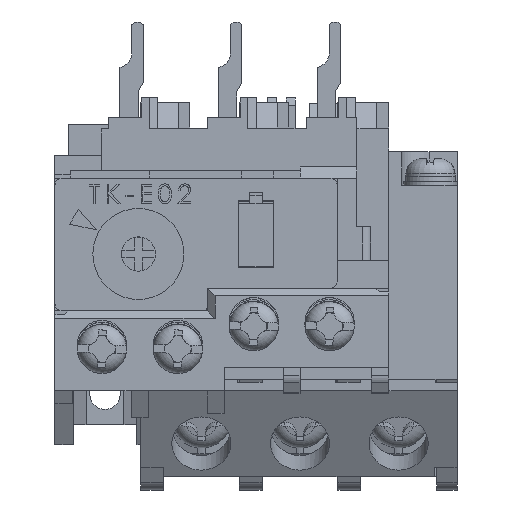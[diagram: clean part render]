
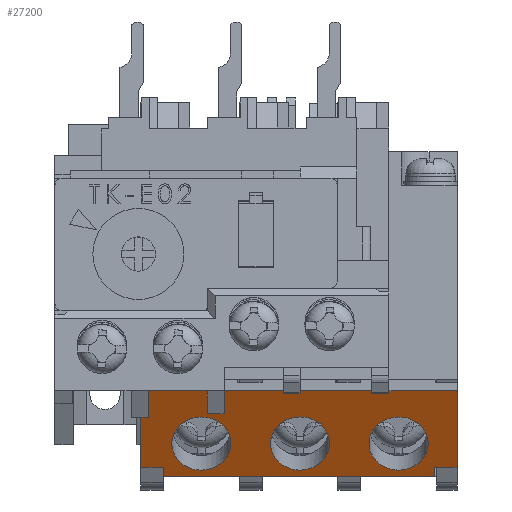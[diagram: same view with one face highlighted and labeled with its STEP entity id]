
A CAD part, top view. The second image highlights one B-rep face of the part: STEP entity #27200.
In plain terms, the highlighted planar face has unit normal (0, -0.5, 0.866).
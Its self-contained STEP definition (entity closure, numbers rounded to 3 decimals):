
#182 = PLANE ( 'NONE',  #13934 ) ;
#342 = CARTESIAN_POINT ( 'NONE',  ( -12.85, 0.882, 8.686 ) ) ;
#566 = EDGE_LOOP ( 'NONE', ( #21565, #7061, #7538, #7155, #8497, #3127, #18412, #22330 ) ) ;
#1351 = VERTEX_POINT ( 'NONE', #11795 ) ;
#1885 = CARTESIAN_POINT ( 'NONE',  ( 20.85, 11.298, 14.7 ) ) ;
#1920 = VECTOR ( 'NONE', #26364, 1000. ) ;
#2061 = VECTOR ( 'NONE', #20780, 1000. ) ;
#2551 = CARTESIAN_POINT ( 'NONE',  ( -20.85, 0., 8.177 ) ) ;
#2606 = EDGE_CURVE ( 'NONE', #24483, #10824, #27872, .T. ) ;
#2613 = CARTESIAN_POINT ( 'NONE',  ( -12.85, 7.875, 12.724 ) ) ;
#2793 = FACE_BOUND ( 'NONE', #27954, .T. ) ;
#3127 = ORIENTED_EDGE ( 'NONE', *, *, #23830, .T. ) ;
#3554 = CARTESIAN_POINT ( 'NONE',  ( -20.85, 0., 8.177 ) ) ;
#3747 =( BOUNDED_CURVE ( )  B_SPLINE_CURVE ( 3, ( #22766, #23163, #22665, #20639, #18528, #18323, #18227 ),
 .UNSPECIFIED., .T., .T. ) 
 B_SPLINE_CURVE_WITH_KNOTS ( ( 4, 3, 4 ),
 ( 0., 3.142, 6.283 ),
 .UNSPECIFIED. ) 
 CURVE ( )  GEOMETRIC_REPRESENTATION_ITEM ( )  RATIONAL_B_SPLINE_CURVE ( ( 1., 0.333, 0.333, 1., 0.333, 0.333, 1. ) ) 
 REPRESENTATION_ITEM ( '' )  );
#3772 = EDGE_CURVE ( 'NONE', #1351, #21315, #8131, .T. ) ;
#4277 = VERTEX_POINT ( 'NONE', #16187 ) ;
#4914 = CARTESIAN_POINT ( 'NONE',  ( -20.65, 0.882, 8.686 ) ) ;
#4920 = VERTEX_POINT ( 'NONE', #22271 ) ;
#7061 = ORIENTED_EDGE ( 'NONE', *, *, #13382, .F. ) ;
#7155 = ORIENTED_EDGE ( 'NONE', *, *, #9972, .T. ) ;
#7538 = ORIENTED_EDGE ( 'NONE', *, *, #26924, .T. ) ;
#7951 = LINE ( 'NONE', #3554, #1920 ) ;
#7960 = EDGE_CURVE ( 'NONE', #16373, #16373, #3747, .T. ) ;
#8131 = LINE ( 'NONE', #25344, #25600 ) ;
#8497 = ORIENTED_EDGE ( 'NONE', *, *, #3772, .F. ) ;
#8586 = DIRECTION ( 'NONE',  ( 1., 0., 0. ) ) ;
#8752 = VERTEX_POINT ( 'NONE', #17857 ) ;
#8765 = EDGE_CURVE ( 'NONE', #4277, #4277, #19084, .T. ) ;
#8869 = FACE_BOUND ( 'NONE', #23170, .T. ) ;
#9249 = CARTESIAN_POINT ( 'NONE',  ( 20.85, 1.25, 8.899 ) ) ;
#9465 = EDGE_LOOP ( 'NONE', ( #15932 ) ) ;
#9972 = EDGE_CURVE ( 'NONE', #22424, #21315, #19538, .T. ) ;
#10415 = VECTOR ( 'NONE', #20592, 1000. ) ;
#10660 = VECTOR ( 'NONE', #26162, 1000. ) ;
#10824 = VERTEX_POINT ( 'NONE', #9249 ) ;
#11795 = CARTESIAN_POINT ( 'NONE',  ( 17.85, 1.25, 8.899 ) ) ;
#12273 = ORIENTED_EDGE ( 'NONE', *, *, #7960, .F. ) ;
#12519 = CARTESIAN_POINT ( 'NONE',  ( -17.85, 1.25, 8.899 ) ) ;
#13382 = EDGE_CURVE ( 'NONE', #4920, #8752, #21497, .T. ) ;
#13413 =( BOUNDED_CURVE ( )  B_SPLINE_CURVE ( 3, ( #342, #20747, #16239, #2613, #18531, #4914, #20852 ),
 .UNSPECIFIED., .T., .F. ) 
 B_SPLINE_CURVE_WITH_KNOTS ( ( 4, 3, 4 ),
 ( 0., 3.142, 6.283 ),
 .UNSPECIFIED. ) 
 CURVE ( )  GEOMETRIC_REPRESENTATION_ITEM ( )  RATIONAL_B_SPLINE_CURVE ( ( 1., 0.333, 0.333, 1., 0.333, 0.333, 1. ) ) 
 REPRESENTATION_ITEM ( '' )  );
#13422 = LINE ( 'NONE', #18559, #2061 ) ;
#13466 = VECTOR ( 'NONE', #18450, 1000. ) ;
#13879 = CARTESIAN_POINT ( 'NONE',  ( 13.15, 0.882, 8.686 ) ) ;
#13934 = AXIS2_PLACEMENT_3D ( 'NONE', #2551, #23000, #18468 ) ;
#13980 = VECTOR ( 'NONE', #8586, 1000. ) ;
#14633 = CARTESIAN_POINT ( 'NONE',  ( 17.85, 0., 8.177 ) ) ;
#14660 = VECTOR ( 'NONE', #18655, 1000. ) ;
#14882 = FACE_OUTER_BOUND ( 'NONE', #566, .T. ) ;
#15820 = ORIENTED_EDGE ( 'NONE', *, *, #8765, .F. ) ;
#15932 = ORIENTED_EDGE ( 'NONE', *, *, #19823, .F. ) ;
#16187 = CARTESIAN_POINT ( 'NONE',  ( 0.15, 0.882, 8.686 ) ) ;
#16239 = CARTESIAN_POINT ( 'NONE',  ( -5.05, 7.875, 12.724 ) ) ;
#16363 = CARTESIAN_POINT ( 'NONE',  ( -17.85, 1.25, 8.899 ) ) ;
#16373 = VERTEX_POINT ( 'NONE', #13879 ) ;
#16579 = CARTESIAN_POINT ( 'NONE',  ( 0.15, 0.882, 8.686 ) ) ;
#16678 = CARTESIAN_POINT ( 'NONE',  ( -7.65, 0.882, 8.686 ) ) ;
#16771 = CARTESIAN_POINT ( 'NONE',  ( -7.65, 7.875, 12.724 ) ) ;
#16803 = CARTESIAN_POINT ( 'NONE',  ( 0.15, 7.875, 12.724 ) ) ;
#16866 = CARTESIAN_POINT ( 'NONE',  ( 7.95, 7.875, 12.724 ) ) ;
#16900 = CARTESIAN_POINT ( 'NONE',  ( 0.15, 0.882, 8.686 ) ) ;
#17092 = CARTESIAN_POINT ( 'NONE',  ( 7.95, 0.882, 8.686 ) ) ;
#17204 = EDGE_CURVE ( 'NONE', #28907, #8752, #7951, .T. ) ;
#17857 = CARTESIAN_POINT ( 'NONE',  ( -20.85, 1.25, 8.899 ) ) ;
#18227 = CARTESIAN_POINT ( 'NONE',  ( 13.15, 0.882, 8.686 ) ) ;
#18323 = CARTESIAN_POINT ( 'NONE',  ( 5.35, 0.882, 8.686 ) ) ;
#18412 = ORIENTED_EDGE ( 'NONE', *, *, #2606, .F. ) ;
#18450 = DIRECTION ( 'NONE',  ( 1., 0., 0. ) ) ;
#18468 = DIRECTION ( 'NONE',  ( 0., -0.866, -0.5 ) ) ;
#18528 = CARTESIAN_POINT ( 'NONE',  ( 5.35, 7.875, 12.724 ) ) ;
#18531 = CARTESIAN_POINT ( 'NONE',  ( -20.65, 7.875, 12.724 ) ) ;
#18559 = CARTESIAN_POINT ( 'NONE',  ( -20.85, 11.298, 14.7 ) ) ;
#18655 = DIRECTION ( 'NONE',  ( -1., 0., 0. ) ) ;
#19084 =( BOUNDED_CURVE ( )  B_SPLINE_CURVE ( 3, ( #16900, #17092, #16866, #16803, #16771, #16678, #16579 ),
 .UNSPECIFIED., .T., .F. ) 
 B_SPLINE_CURVE_WITH_KNOTS ( ( 4, 3, 4 ),
 ( 0., 3.142, 6.283 ),
 .UNSPECIFIED. ) 
 CURVE ( )  GEOMETRIC_REPRESENTATION_ITEM ( )  RATIONAL_B_SPLINE_CURVE ( ( 1., 0.333, 0.333, 1., 0.333, 0.333, 1. ) ) 
 REPRESENTATION_ITEM ( '' )  );
#19136 = DIRECTION ( 'NONE',  ( 0., -0.866, -0.5 ) ) ;
#19389 = CARTESIAN_POINT ( 'NONE',  ( -20.85, 0., 8.177 ) ) ;
#19538 = LINE ( 'NONE', #19389, #13466 ) ;
#19569 = VERTEX_POINT ( 'NONE', #20902 ) ;
#19823 = EDGE_CURVE ( 'NONE', #19569, #19569, #13413, .T. ) ;
#20592 = DIRECTION ( 'NONE',  ( 0., -0.866, -0.5 ) ) ;
#20639 = CARTESIAN_POINT ( 'NONE',  ( 13.15, 7.875, 12.724 ) ) ;
#20693 = CARTESIAN_POINT ( 'NONE',  ( 20.85, 0., 8.177 ) ) ;
#20747 = CARTESIAN_POINT ( 'NONE',  ( -5.05, 0.882, 8.686 ) ) ;
#20780 = DIRECTION ( 'NONE',  ( 1., 0., 0. ) ) ;
#20852 = CARTESIAN_POINT ( 'NONE',  ( -12.85, 0.882, 8.686 ) ) ;
#20902 = CARTESIAN_POINT ( 'NONE',  ( -12.85, 0.882, 8.686 ) ) ;
#20993 = FACE_BOUND ( 'NONE', #9465, .T. ) ;
#21122 = EDGE_CURVE ( 'NONE', #28907, #24483, #13422, .T. ) ;
#21315 = VERTEX_POINT ( 'NONE', #14633 ) ;
#21497 = LINE ( 'NONE', #16363, #14660 ) ;
#21565 = ORIENTED_EDGE ( 'NONE', *, *, #17204, .T. ) ;
#22245 = CARTESIAN_POINT ( 'NONE',  ( 17.85, 1.25, 8.899 ) ) ;
#22271 = CARTESIAN_POINT ( 'NONE',  ( -17.85, 1.25, 8.899 ) ) ;
#22330 = ORIENTED_EDGE ( 'NONE', *, *, #21122, .F. ) ;
#22424 = VERTEX_POINT ( 'NONE', #22737 ) ;
#22665 = CARTESIAN_POINT ( 'NONE',  ( 20.95, 7.875, 12.724 ) ) ;
#22737 = CARTESIAN_POINT ( 'NONE',  ( -17.85, 0., 8.177 ) ) ;
#22766 = CARTESIAN_POINT ( 'NONE',  ( 13.15, 0.882, 8.686 ) ) ;
#22804 = LINE ( 'NONE', #12519, #10660 ) ;
#23000 = DIRECTION ( 'NONE',  ( 0., -0.5, 0.866 ) ) ;
#23163 = CARTESIAN_POINT ( 'NONE',  ( 20.95, 0.882, 8.686 ) ) ;
#23170 = EDGE_LOOP ( 'NONE', ( #12273 ) ) ;
#23830 = EDGE_CURVE ( 'NONE', #1351, #10824, #26123, .T. ) ;
#24483 = VERTEX_POINT ( 'NONE', #1885 ) ;
#25344 = CARTESIAN_POINT ( 'NONE',  ( 17.85, 1.25, 8.899 ) ) ;
#25600 = VECTOR ( 'NONE', #19136, 1000. ) ;
#26123 = LINE ( 'NONE', #22245, #13980 ) ;
#26162 = DIRECTION ( 'NONE',  ( 0., -0.866, -0.5 ) ) ;
#26364 = DIRECTION ( 'NONE',  ( 0., -0.866, -0.5 ) ) ;
#26924 = EDGE_CURVE ( 'NONE', #4920, #22424, #22804, .T. ) ;
#27200 = ADVANCED_FACE ( 'NONE', ( #20993, #2793, #8869, #14882 ), #182, .T. ) ;
#27872 = LINE ( 'NONE', #20693, #10415 ) ;
#27954 = EDGE_LOOP ( 'NONE', ( #15820 ) ) ;
#28907 = VERTEX_POINT ( 'NONE', #29199 ) ;
#29199 = CARTESIAN_POINT ( 'NONE',  ( -20.85, 11.298, 14.7 ) ) ;
